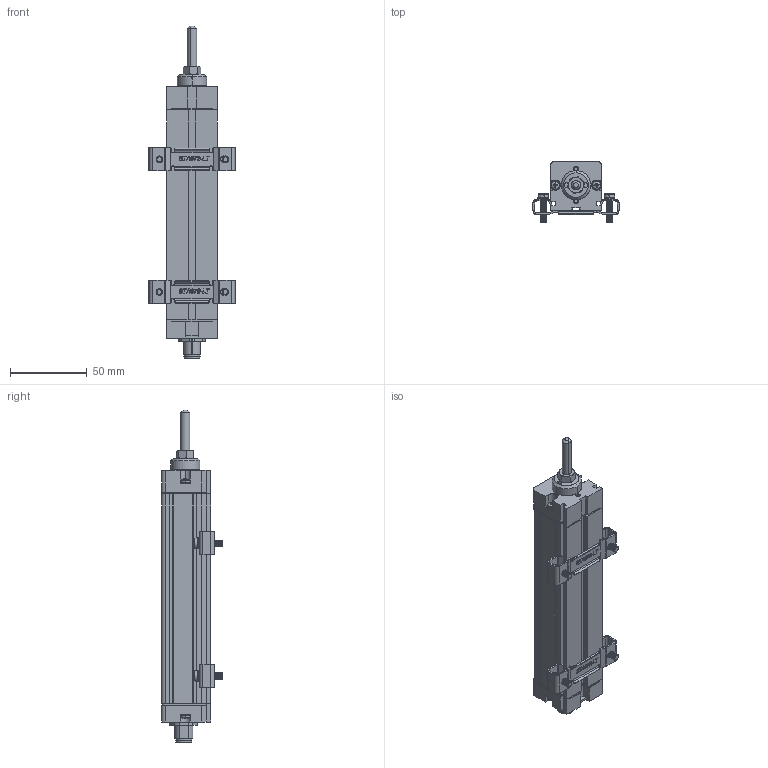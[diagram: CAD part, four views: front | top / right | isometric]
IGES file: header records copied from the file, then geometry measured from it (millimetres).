
Start section: SolidWorks IGES file using analytic representation for surfaces
Global section: file name: K:\Disegni Catalogo\Posizione\LT67\LT67-0100\3D\Iges 5.3\LT67-0100.IGS; native system: SolidWorks 2012; preprocessor: SolidWorks 2012; author: Loda-w1; date: 120327.141318; units: millimetre
Bounding box: 56 x 39.7 x 216.17 mm (x, y, z)
Surface area: 53598 mm2 (no closed solid volume)
Topology: 0 solids, 0 shells, 2236 faces, 18434 edges, 18418 vertices
Faces by surface type: revolution 1435, bspline 801
